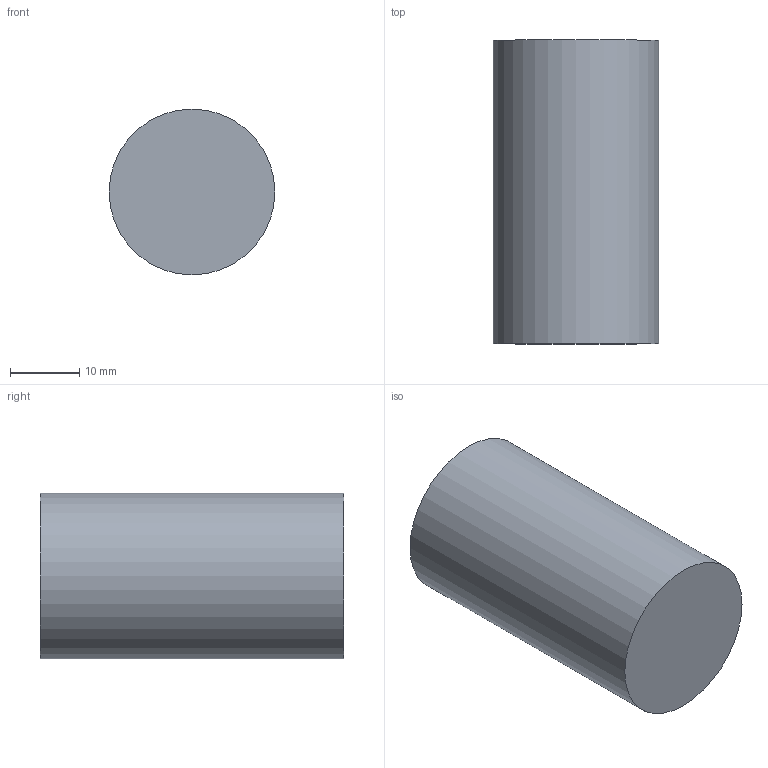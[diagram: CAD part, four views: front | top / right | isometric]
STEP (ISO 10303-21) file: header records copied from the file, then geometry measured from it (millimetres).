
FILE_DESCRIPTION(('Open CASCADE Model'),'2;1');
FILE_NAME('Open CASCADE Shape Model','2026-10-04T02:31:41',('Author'),( 'Open CASCADE'),'Open CASCADE STEP processor 8.0','Open CASCADE 8.0' ,'Unknown');
FILE_SCHEMA(('AUTOMOTIVE_DESIGN { 1 0 10303 214 1 1 1 1 }'));
Length unit declared in the file: millimetre
Products named in the file (1): Open CASCADE STEP translator 8.0 253
Bounding box: 24 x 44 x 24 mm (x, y, z)
Volume: 19905.1 mm3; surface area: 4222.3 mm2
Topology: 1 solids, 1 shells, 3 faces, 3 edges, 2 vertices
Faces by surface type: plane 2, cylinder 1
Full cylindrical faces by diameter (mm): 24 x1
Entity records: 108 total; most frequent: DIRECTION 19, CARTESIAN_POINT 15, AXIS2_PLACEMENT_3D 6, ORIENTED_EDGE 6, PCURVE 6, DEFINITIONAL_REPRESENTATION 6, LINE 5, VECTOR 5
